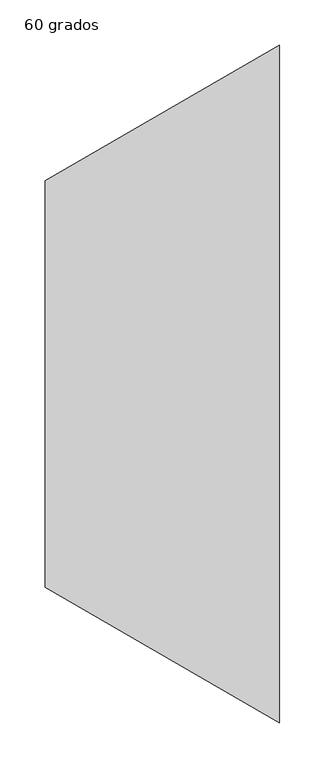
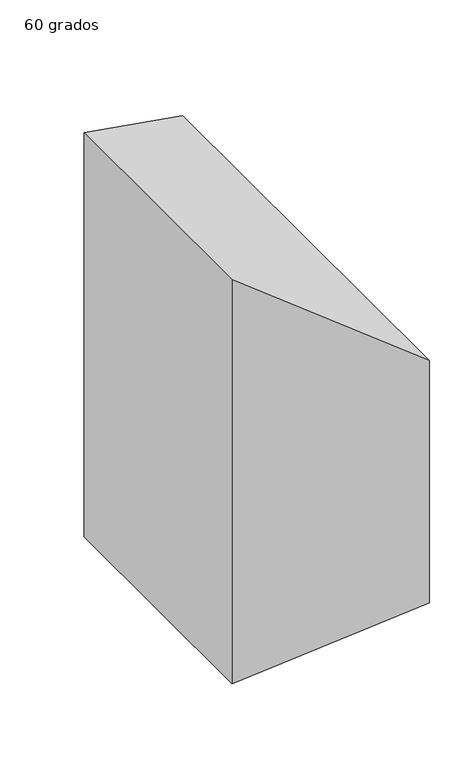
"""IFC4 building model written with IfcOpenShell, lengths in millimetres: duct fitting geometry, M_Transición rectangular - Ángulo : 60 grados."""

from ifc_helpers import new_model, si_unit, origin, place, context, project, spatial, faceted_brep, source, transform, mapped, element, save


def duct_fitting_60_grados_18d35d61(model_context):
    return source(origin(), model_context, "Body", "Brep", [
        faceted_brep([(259.8076211, -375.0, 225.0), (259.8076211, -375.0, -225.0), (259.8076211, 375.0, -225.0), (259.8076211, 375.0, 225.0), (0.0, -225.0, 375.0), (0.0, 225.0, 375.0), (0.0, 225.0, -375.0), (0.0, -225.0, -375.0)], [[[0, 1, 2, 3]], [[4, 5, 6, 7]], [[4, 7, 1, 0]], [[7, 6, 2, 1]], [[6, 5, 3, 2]], [[5, 4, 0, 3]]]),
    ])


if __name__ == "__main__":
    model = new_model("IFC4")
    model_context = context("Model", 3, world=origin())
    ifc_project = project(units=[si_unit("LENGTHUNIT", "METRE", prefix="MILLI")], contexts=[model_context])
    site = spatial("IfcSite", under=ifc_project)
    building = spatial("IfcBuilding", under=site)
    placement = place(None, origin())
    duct_fitting_60_grados_shape = duct_fitting_60_grados_18d35d61(model_context)
    element("IfcDuctFitting", 1, ObjectType="M_Transición rectangular - Ángulo : 60 grados", at=placement, inside=building, context=model_context, shape_type="MappedRepresentation", body=[
        mapped(duct_fitting_60_grados_shape, transform((0.0, 0.0, 0.0), x_axis=(1.0, 0.0, 0.0), y_axis=(0.0, 1.0, 0.0), z_axis=(0.0, 0.0, 1.0))),
    ])
    save(model, "model.ifc")
